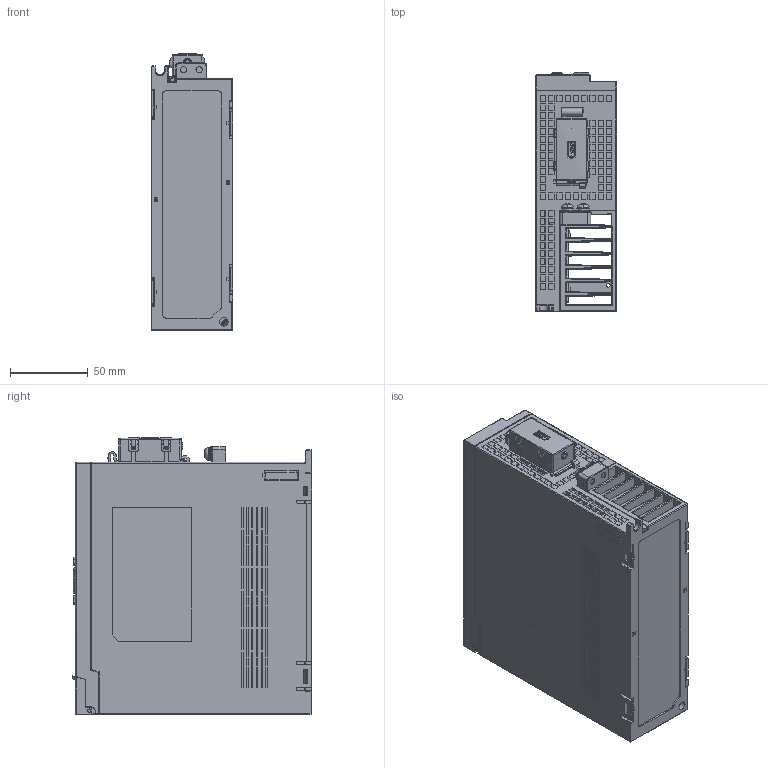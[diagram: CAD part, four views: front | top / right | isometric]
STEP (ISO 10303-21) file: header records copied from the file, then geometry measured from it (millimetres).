
FILE_DESCRIPTION((''),'2;1');
FILE_NAME('REP0002_SW00014','2021-09-03T',('Administrator'),(''),'PRO/ENGINEER BY PARAMETRIC TECHNOLOGY CORPORATION, 2010280','PRO/ENGINEER BY PARAMETRIC TECHNOLOGY CORPORATION, 2010280','');
FILE_SCHEMA(('CONFIG_CONTROL_DESIGN'));
Products named in the file (1): REP0002_SW00014
Bounding box: 52.1 x 154 x 178 mm (x, y, z)
Volume: 852817.5 mm3; surface area: 255937.3 mm2
Topology: 1 solids, 5 shells, 3443 faces, 9441 edges, 6172 vertices
Faces by surface type: plane 2743, cylinder 527, sphere 66, bspline 48, torus 26, cone 18, extrusion 15
Entity records: 117082 total; most frequent: CARTESIAN_POINT 29626, ORIENTED_EDGE 18878, DIRECTION 16551, EDGE_CURVE 9439, VECTOR 8041, LINE 8026, VERTEX_POINT 6172, AXIS2_PLACEMENT_3D 4255
